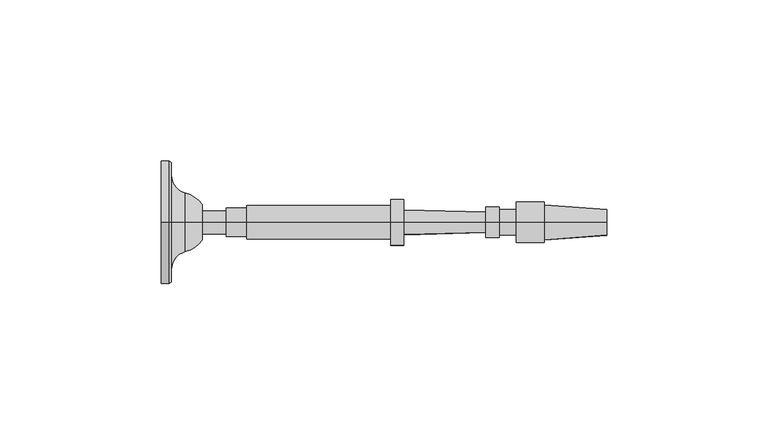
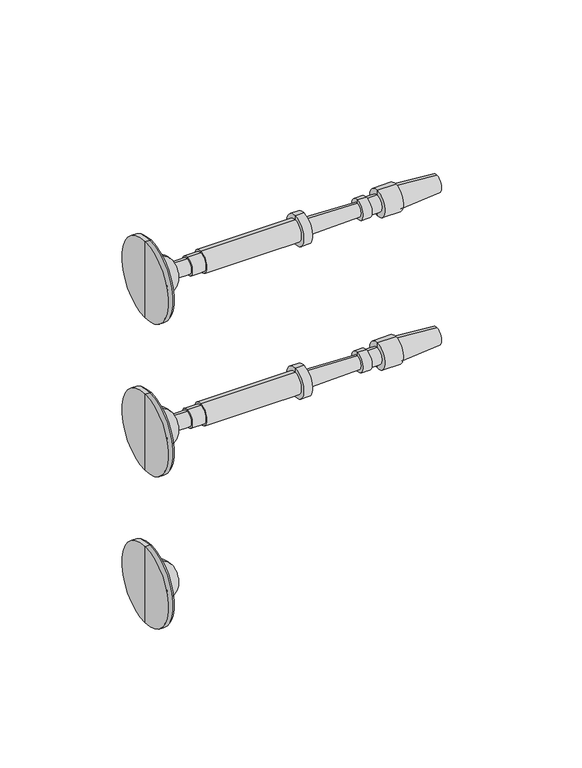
"""IFC4 building model written with IfcOpenShell, lengths in millimetres: railing geometry, RAILEASY CABLE RAILING CORNER TENSIONERS STAIR."""

from ifc_helpers import new_model, si_unit, point, frame, origin, place, context, project, spatial, polyline, circle_curve, ellipse_curve, trimmed, source, transform, mapped, element, save
from ifc_brep_helpers import plane_surface, cylinder_surface, revolved_surface, advanced_brep


def railing_03d107fd(model_context):
    return source(origin(), model_context, "Body", "AdvancedBrep", [
        advanced_brep(
        [(1809.936189, 16706.2866843, 32915.0001631), (1809.936189, 16706.2866843, 32895.9501631), (1809.936189, 16706.2866843, 32934.0501631), (1822.6288256, 16706.2866843, 32909.4769785), (1822.6288256, 16706.2866843, 32915.0001631), (1822.6288256, 16706.2866843, 32920.5233478), (1817.3527292, 16706.2866843, 32905.8720381), (1817.3527292, 16706.2866843, 32924.1282881), (1812.9871042, 16706.2866843, 32900.2458254), (1812.9871042, 16706.2866843, 32929.7545009), (1812.9871042, 16706.2866843, 32896.3762941), (1812.9871042, 16706.2866843, 32933.6240321), (1812.317439, 16706.2866843, 32895.9501631), (1812.317439, 16706.2866843, 32934.0501631)],
        [
            (0, 1),
            (1, 2, circle_curve(frame((1809.936189, 16706.2866843, 32915.0001631), z_axis=(-1.0, 0.0, 0.0), x_axis=(0.0, 0.0, 1.0)), 19.05)),
            (2, 0),
            (2, 1, circle_curve(frame((1809.936189, 16706.2866843, 32915.0001631), z_axis=(-1.0, 0.0, 0.0), x_axis=(0.0, 0.0, 1.0)), 19.05)),
            (3, 4),
            (4, 5),
            (5, 3, circle_curve(frame((1822.6288256, 16706.2866843, 32915.0001631), z_axis=(1.0, 0.0, 0.0), x_axis=(0.0, 0.0, 1.0)), 5.5231846)),
            (3, 5, circle_curve(frame((1822.6288256, 16706.2866843, 32915.0001631), z_axis=(1.0, 0.0, 0.0), x_axis=(0.0, 0.0, 1.0)), 5.5231846)),
            (6, 3, circle_curve(frame((1815.0283205, 16706.2866843, 32914.9374304), z_axis=(0.0, -1.0, 0.0), x_axis=(1.0, 0.0, 0.0)), 9.3586438)),
            (5, 7, circle_curve(frame((1815.0283205, 16706.2866843, 32915.0628958), z_axis=(0.0, -1.0, 0.0), x_axis=(1.0, 0.0, 0.0)), 9.3586438)),
            (7, 6, circle_curve(frame((1817.3527292, 16706.2866843, 32915.0001631), z_axis=(1.0, 0.0, 0.0), x_axis=(0.0, 0.0, 1.0)), 9.128125)),
            (6, 7, circle_curve(frame((1817.3527292, 16706.2866843, 32915.0001631), z_axis=(1.0, 0.0, 0.0), x_axis=(0.0, 0.0, 1.0)), 9.128125)),
            (8, 6, circle_curve(frame((1818.7953162, 16706.2866843, 32900.2458254), z_axis=(0.0, 1.0, 0.0), x_axis=(1.0, 0.0, 0.0)), 5.8082121)),
            (7, 9, circle_curve(frame((1818.7953162, 16706.2866843, 32929.7545009), z_axis=(0.0, 1.0, 0.0), x_axis=(1.0, 0.0, 0.0)), 5.8082121)),
            (9, 8, circle_curve(frame((1812.9871042, 16706.2866843, 32915.0001631), z_axis=(1.0, 0.0, 0.0), x_axis=(0.0, 0.0, 1.0)), 14.7543378)),
            (8, 9, circle_curve(frame((1812.9871042, 16706.2866843, 32915.0001631), z_axis=(1.0, 0.0, 0.0), x_axis=(0.0, 0.0, 1.0)), 14.7543378)),
            (10, 8),
            (9, 11),
            (11, 10, circle_curve(frame((1812.9871042, 16706.2866843, 32915.0001631), z_axis=(1.0, 0.0, 0.0), x_axis=(0.0, 0.0, 1.0)), 18.623869)),
            (10, 11, circle_curve(frame((1812.9871042, 16706.2866843, 32915.0001631), z_axis=(1.0, 0.0, 0.0), x_axis=(0.0, 0.0, 1.0)), 18.623869)),
            (12, 10),
            (11, 13),
            (13, 12, circle_curve(frame((1812.317439, 16706.2866843, 32915.0001631), z_axis=(1.0, 0.0, 0.0), x_axis=(0.0, 0.0, 1.0)), 19.05)),
            (12, 13, circle_curve(frame((1812.317439, 16706.2866843, 32915.0001631), z_axis=(1.0, 0.0, 0.0), x_axis=(0.0, 0.0, 1.0)), 19.05)),
            (1, 12),
            (13, 2),
        ],
        [
            plane_surface(frame((1809.936189, 16706.2866843, 32915.0001631), z_axis=(-1.0, 0.0, 0.0), x_axis=(0.0, 0.0, 1.0))),
            plane_surface(frame((1822.6288256, 16706.2866843, 32915.0001631), z_axis=(1.0, 0.0, 0.0), x_axis=(0.0, 0.0, 1.0))),
            revolved_surface(trimmed(ellipse_curve(frame((1815.0283205, 16706.2866843, 32915.0628958), z_axis=(0.0, -1.0, 0.0), x_axis=(1.0, 0.0, 0.0)), 9.3586438, 9.3586438), [point((1822.6288256, 16706.2866843, 32920.5233478))], [point((1817.3527292, 16706.2866843, 32924.1282881))], True, "CARTESIAN"), (1809.936189, 16706.2866843, 32915.0001631), (-1.0, 0.0, 0.0)),
            revolved_surface(trimmed(ellipse_curve(frame((1818.7953162, 16706.2866843, 32929.7545009), z_axis=(0.0, 1.0, 0.0), x_axis=(1.0, 0.0, 0.0)), 5.8082121, 5.8082121), [point((1817.3527292, 16706.2866843, 32924.1282881))], [point((1812.9871042, 16706.2866843, 32929.7545009))], True, "CARTESIAN"), (1809.936189, 16706.2866843, 32915.0001631), (-1.0, 0.0, 0.0)),
            plane_surface(frame((1812.9871042, 16706.2866843, 32915.0001631), z_axis=(1.0, 0.0, 0.0), x_axis=(0.0, 0.0, 1.0))),
            revolved_surface(polyline([(1812.9871042, 16706.2866843, 32933.6240321), (1812.317439, 16706.2866843, 32934.0501631)]), (1809.936189, 16706.2866843, 32915.0001631), (-1.0, 0.0, 0.0)),
            cylinder_surface(frame((1809.936189, 16706.2866843, 32915.0001631), z_axis=(-1.0, 0.0, 0.0), x_axis=(0.0, 0.0, 1.0)), 19.05),
        ],
        [
            (0, [[1, 2, 3]]),
            (0, [[-3, 4, -1]]),
            (1, [[5, 6, 7]]),
            (1, [[-6, -5, 8]]),
            (2, [[9, -7, 10, 11]]),
            (2, [[-10, -8, -9, 12]]),
            (3, [[13, -11, 14, 15]]),
            (3, [[-14, -12, -13, 16]]),
            (4, [[17, -15, 18, 19]]),
            (4, [[-18, -16, -17, 20]]),
            (5, [[21, -19, 22, 23]]),
            (5, [[-22, -20, -21, 24]]),
            (6, [[25, -23, 26, -2]]),
            (6, [[-26, -24, -25, -4]]),
        ],
    ),
        advanced_brep(
        [(1822.6288256, 16706.2866843, 32911.4282881), (1822.6288256, 16706.2866843, 32918.5720381), (1822.6288256, 16706.2866843, 32915.0001631), (1947.5727148, 16706.2866843, 32915.0001631), (1947.8683792, 16706.2866843, 32919.0246235), (1947.8683792, 16706.2866843, 32910.9757028), (1928.5250152, 16706.2866843, 32920.445719), (1928.5250152, 16706.2866843, 32909.5546072), (1928.5250152, 16706.2866843, 32921.3386877), (1928.5250152, 16706.2866843, 32908.6616385), (1919.892984, 16706.2866843, 32921.3386877), (1919.892984, 16706.2866843, 32908.6616385), (1919.892984, 16706.2866843, 32918.9574377), (1919.892984, 16706.2866843, 32911.0428885), (1914.5351715, 16706.2866843, 32918.9574377), (1914.5351715, 16706.2866843, 32911.0428885), (1914.5351715, 16706.2866843, 32919.7511877), (1914.5351715, 16706.2866843, 32910.2491385), (1910.4672027, 16706.2866843, 32919.7511877), (1910.4672027, 16706.2866843, 32910.2491385), (1910.4231156, 16706.2866843, 32918.1643), (1910.4231156, 16706.2866843, 32911.8360262), (1885.0329124, 16706.2866843, 32918.8696944), (1885.0329124, 16706.2866843, 32911.1306319), (1885.0329124, 16706.2866843, 32922.1439131), (1885.0329124, 16706.2866843, 32907.8564131), (1881.0641624, 16706.2866843, 32922.1439131), (1881.0641624, 16706.2866843, 32907.8564131), (1881.0641624, 16706.2866843, 32920.1595381), (1881.0641624, 16706.2866843, 32909.8407881), (1836.3165061, 16706.2866843, 32920.1595381), (1836.3165061, 16706.2866843, 32909.8407881), (1836.3165061, 16706.2866843, 32919.3657881), (1836.3165061, 16706.2866843, 32910.6345381), (1829.9665061, 16706.2866843, 32919.3657881), (1829.9665061, 16706.2866843, 32910.6345381), (1829.9665061, 16706.2866843, 32918.5720381), (1829.9665061, 16706.2866843, 32911.4282881)],
        [
            (0, 1, circle_curve(frame((1822.6288256, 16706.2866843, 32915.0001631), z_axis=(-1.0, 0.0, 0.0), x_axis=(0.0, 0.0, 1.0000000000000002)), 3.571875)),
            (1, 2),
            (2, 0),
            (1, 0, circle_curve(frame((1822.6288256, 16706.2866843, 32915.0001631), z_axis=(-1.0, 0.0, 0.0), x_axis=(0.0, 0.0, 1.0000000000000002)), 3.571875)),
            (3, 4),
            (4, 5, circle_curve(frame((1947.8683792, 16706.2866843, 32915.0001631), z_axis=(1.0, 0.0, 0.0), x_axis=(0.0, 0.0, 1.0000000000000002)), 4.0244604)),
            (5, 3),
            (5, 4, circle_curve(frame((1947.8683792, 16706.2866843, 32915.0001631), z_axis=(1.0, 0.0, 0.0), x_axis=(0.0, 0.0, 1.0000000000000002)), 4.0244604)),
            (4, 6),
            (6, 7, circle_curve(frame((1928.5250152, 16706.2866843, 32915.0001631), z_axis=(1.0, 0.0, 0.0), x_axis=(0.0, 0.0, 1.0000000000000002)), 5.4455559)),
            (7, 5),
            (7, 6, circle_curve(frame((1928.5250152, 16706.2866843, 32915.0001631), z_axis=(1.0, 0.0, 0.0), x_axis=(0.0, 0.0, 1.0000000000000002)), 5.4455559)),
            (6, 8),
            (8, 9, circle_curve(frame((1928.5250152, 16706.2866843, 32915.0001631), z_axis=(1.0, 0.0, 0.0), x_axis=(0.0, 0.0, 1.0000000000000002)), 6.3385246)),
            (9, 7),
            (9, 8, circle_curve(frame((1928.5250152, 16706.2866843, 32915.0001631), z_axis=(1.0, 0.0, 0.0), x_axis=(0.0, 0.0, 1.0000000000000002)), 6.3385246)),
            (8, 10),
            (10, 11, circle_curve(frame((1919.892984, 16706.2866843, 32915.0001631), z_axis=(1.0, 0.0, 0.0), x_axis=(0.0, 0.0, 1.0000000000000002)), 6.3385246)),
            (11, 9),
            (11, 10, circle_curve(frame((1919.892984, 16706.2866843, 32915.0001631), z_axis=(1.0, 0.0, 0.0), x_axis=(0.0, 0.0, 1.0000000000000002)), 6.3385246)),
            (10, 12),
            (12, 13, circle_curve(frame((1919.892984, 16706.2866843, 32915.0001631), z_axis=(1.0, 0.0, 0.0), x_axis=(0.0, 0.0, 1.0000000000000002)), 3.9572746)),
            (13, 11),
            (13, 12, circle_curve(frame((1919.892984, 16706.2866843, 32915.0001631), z_axis=(1.0, 0.0, 0.0), x_axis=(0.0, 0.0, 1.0000000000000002)), 3.9572746)),
            (12, 14),
            (14, 15, circle_curve(frame((1914.5351715, 16706.2866843, 32915.0001631), z_axis=(1.0, 0.0, 0.0), x_axis=(0.0, 0.0, 1.0000000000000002)), 3.9572746)),
            (15, 13),
            (15, 14, circle_curve(frame((1914.5351715, 16706.2866843, 32915.0001631), z_axis=(1.0, 0.0, 0.0), x_axis=(0.0, 0.0, 1.0000000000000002)), 3.9572746)),
            (14, 16),
            (16, 17, circle_curve(frame((1914.5351715, 16706.2866843, 32915.0001631), z_axis=(1.0, 0.0, 0.0), x_axis=(0.0, 0.0, 1.0000000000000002)), 4.7510246)),
            (17, 15),
            (17, 16, circle_curve(frame((1914.5351715, 16706.2866843, 32915.0001631), z_axis=(1.0, 0.0, 0.0), x_axis=(0.0, 0.0, 1.0000000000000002)), 4.7510246)),
            (16, 18),
            (18, 19, circle_curve(frame((1910.4672027, 16706.2866843, 32915.0001631), z_axis=(1.0, 0.0, 0.0), x_axis=(0.0, 0.0, 1.0000000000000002)), 4.7510246)),
            (19, 17),
            (19, 18, circle_curve(frame((1910.4672027, 16706.2866843, 32915.0001631), z_axis=(1.0, 0.0, 0.0), x_axis=(0.0, 0.0, 1.0000000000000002)), 4.7510246)),
            (18, 20),
            (20, 21, circle_curve(frame((1910.4231156, 16706.2866843, 32915.0001631), z_axis=(1.0, 0.0, 0.0), x_axis=(0.0, 0.0, 1.0000000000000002)), 3.1641369)),
            (21, 19),
            (21, 20, circle_curve(frame((1910.4231156, 16706.2866843, 32915.0001631), z_axis=(1.0, 0.0, 0.0), x_axis=(0.0, 0.0, 1.0000000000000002)), 3.1641369)),
            (20, 22),
            (22, 23, circle_curve(frame((1885.0329124, 16706.2866843, 32915.0001631), z_axis=(1.0, 0.0, 0.0), x_axis=(0.0, 0.0, 1.0000000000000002)), 3.8695313)),
            (23, 21),
            (23, 22, circle_curve(frame((1885.0329124, 16706.2866843, 32915.0001631), z_axis=(1.0, 0.0, 0.0), x_axis=(0.0, 0.0, 1.0000000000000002)), 3.8695313)),
            (22, 24),
            (24, 25, circle_curve(frame((1885.0329124, 16706.2866843, 32915.0001631), z_axis=(1.0, 0.0, 0.0), x_axis=(0.0, 0.0, 1.0000000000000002)), 7.14375)),
            (25, 23),
            (25, 24, circle_curve(frame((1885.0329124, 16706.2866843, 32915.0001631), z_axis=(1.0, 0.0, 0.0), x_axis=(0.0, 0.0, 1.0000000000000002)), 7.14375)),
            (24, 26),
            (26, 27, circle_curve(frame((1881.0641624, 16706.2866843, 32915.0001631), z_axis=(1.0, 0.0, 0.0), x_axis=(0.0, 0.0, 1.0000000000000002)), 7.14375)),
            (27, 25),
            (27, 26, circle_curve(frame((1881.0641624, 16706.2866843, 32915.0001631), z_axis=(1.0, 0.0, 0.0), x_axis=(0.0, 0.0, 1.0000000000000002)), 7.14375)),
            (26, 28),
            (28, 29, circle_curve(frame((1881.0641624, 16706.2866843, 32915.0001631), z_axis=(1.0, 0.0, 0.0), x_axis=(0.0, 0.0, 1.0000000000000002)), 5.159375)),
            (29, 27),
            (29, 28, circle_curve(frame((1881.0641624, 16706.2866843, 32915.0001631), z_axis=(1.0, 0.0, 0.0), x_axis=(0.0, 0.0, 1.0000000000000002)), 5.159375)),
            (28, 30),
            (30, 31, circle_curve(frame((1836.3165061, 16706.2866843, 32915.0001631), z_axis=(1.0, 0.0, 0.0), x_axis=(0.0, 0.0, 1.0000000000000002)), 5.159375)),
            (31, 29),
            (31, 30, circle_curve(frame((1836.3165061, 16706.2866843, 32915.0001631), z_axis=(1.0, 0.0, 0.0), x_axis=(0.0, 0.0, 1.0000000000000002)), 5.159375)),
            (30, 32),
            (32, 33, circle_curve(frame((1836.3165061, 16706.2866843, 32915.0001631), z_axis=(1.0, 0.0, 0.0), x_axis=(0.0, 0.0, 1.0000000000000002)), 4.365625)),
            (33, 31),
            (33, 32, circle_curve(frame((1836.3165061, 16706.2866843, 32915.0001631), z_axis=(1.0, 0.0, 0.0), x_axis=(0.0, 0.0, 1.0000000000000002)), 4.365625)),
            (32, 34),
            (34, 35, circle_curve(frame((1829.9665061, 16706.2866843, 32915.0001631), z_axis=(1.0, 0.0, 0.0), x_axis=(0.0, 0.0, 1.0000000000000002)), 4.365625)),
            (35, 33),
            (35, 34, circle_curve(frame((1829.9665061, 16706.2866843, 32915.0001631), z_axis=(1.0, 0.0, 0.0), x_axis=(0.0, 0.0, 1.0000000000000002)), 4.365625)),
            (34, 36),
            (36, 37, circle_curve(frame((1829.9665061, 16706.2866843, 32915.0001631), z_axis=(1.0, 0.0, 0.0), x_axis=(0.0, 0.0, 1.0000000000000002)), 3.571875)),
            (37, 35),
            (37, 36, circle_curve(frame((1829.9665061, 16706.2866843, 32915.0001631), z_axis=(1.0, 0.0, 0.0), x_axis=(0.0, 0.0, 1.0000000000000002)), 3.571875)),
            (36, 1),
            (0, 37),
        ],
        [
            plane_surface(frame((1822.6288256, 16706.2866843, 32915.0001631), z_axis=(-1.0, 0.0, 0.0), x_axis=(0.0, 0.0, 1.0))),
            revolved_surface(polyline([(1947.8683792, 16706.2866843, 32919.0246235), (1947.5727148, 16706.2866843, 32915.0001631)]), (1947.5727148, 16706.2866843, 32915.0001631), (1.0, 0.0, 0.0)),
            revolved_surface(polyline([(1928.5250152, 16706.2866843, 32920.445719), (1947.8683792, 16706.2866843, 32919.0246235)]), (1947.5727148, 16706.2866843, 32915.0001631), (1.0, 0.0, 0.0)),
            plane_surface(frame((1928.5250152, 16706.2866843, 32915.0001631), z_axis=(1.0, 0.0, 0.0), x_axis=(0.0, 0.0, 1.0))),
            cylinder_surface(frame((1947.5727148, 16706.2866843, 32915.0001631), z_axis=(1.0, 0.0, 0.0), x_axis=(0.0, 0.0, 1.0000000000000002)), 6.3385246),
            plane_surface(frame((1919.892984, 16706.2866843, 32915.0001631), z_axis=(-1.0, 0.0, 0.0), x_axis=(0.0, 0.0, 1.0))),
            cylinder_surface(frame((1947.5727148, 16706.2866843, 32915.0001631), z_axis=(1.0, 0.0, 0.0), x_axis=(0.0, 0.0, 1.0000000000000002)), 3.9572746),
            plane_surface(frame((1914.5351715, 16706.2866843, 32915.0001631), z_axis=(1.0, 0.0, 0.0), x_axis=(0.0, 0.0, 1.0))),
            cylinder_surface(frame((1947.5727148, 16706.2866843, 32915.0001631), z_axis=(1.0, 0.0, 0.0), x_axis=(0.0, 0.0, 1.0000000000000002)), 4.7510246),
            plane_surface(frame((1910.4231156, 16706.2866843, 32915.0001631), z_axis=(-1.0, 0.0, 0.0), x_axis=(0.0, 0.0, 1.0))),
            revolved_surface(polyline([(1885.0329124, 16706.2866843, 32918.8696944), (1910.4231156, 16706.2866843, 32918.1643)]), (1947.5727148, 16706.2866843, 32915.0001631), (1.0, 0.0, 0.0)),
            plane_surface(frame((1885.0329124, 16706.2866843, 32915.0001631), z_axis=(1.0, 0.0, 0.0), x_axis=(0.0, 0.0, 1.0))),
            cylinder_surface(frame((1947.5727148, 16706.2866843, 32915.0001631), z_axis=(1.0, 0.0, 0.0), x_axis=(0.0, 0.0, 1.0000000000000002)), 7.14375),
            plane_surface(frame((1881.0641624, 16706.2866843, 32915.0001631), z_axis=(-1.0, 0.0, 0.0), x_axis=(0.0, 0.0, 1.0))),
            cylinder_surface(frame((1947.5727148, 16706.2866843, 32915.0001631), z_axis=(1.0, 0.0, 0.0), x_axis=(0.0, 0.0, 1.0000000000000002)), 5.159375),
            plane_surface(frame((1836.3165061, 16706.2866843, 32915.0001631), z_axis=(-1.0, 0.0, 0.0), x_axis=(0.0, 0.0, 1.0))),
            cylinder_surface(frame((1947.5727148, 16706.2866843, 32915.0001631), z_axis=(1.0, 0.0, 0.0), x_axis=(0.0, 0.0, 1.0000000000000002)), 4.365625),
            plane_surface(frame((1829.9665061, 16706.2866843, 32915.0001631), z_axis=(-1.0, 0.0, 0.0), x_axis=(0.0, 0.0, 1.0))),
            cylinder_surface(frame((1947.5727148, 16706.2866843, 32915.0001631), z_axis=(1.0, 0.0, 0.0), x_axis=(0.0, 0.0, 1.0000000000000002)), 3.571875),
        ],
        [
            (0, [[1, 2, 3]]),
            (0, [[4, -3, -2]]),
            (1, [[5, 6, 7]]),
            (1, [[-7, 8, -5]]),
            (2, [[-6, 9, 10, 11]]),
            (2, [[-8, -11, 12, -9]]),
            (3, [[-10, 13, 14, 15]]),
            (3, [[-12, -15, 16, -13]]),
            (4, [[-14, 17, 18, 19]]),
            (4, [[-16, -19, 20, -17]]),
            (5, [[-18, 21, 22, 23]]),
            (5, [[-20, -23, 24, -21]]),
            (6, [[-22, 25, 26, 27]]),
            (6, [[-24, -27, 28, -25]]),
            (7, [[-26, 29, 30, 31]]),
            (7, [[-28, -31, 32, -29]]),
            (8, [[-30, 33, 34, 35]]),
            (8, [[-32, -35, 36, -33]]),
            (9, [[-34, 37, 38, 39]]),
            (9, [[-36, -39, 40, -37]]),
            (10, [[-38, 41, 42, 43]]),
            (10, [[-40, -43, 44, -41]]),
            (11, [[-42, 45, 46, 47]]),
            (11, [[-44, -47, 48, -45]]),
            (12, [[-46, 49, 50, 51]]),
            (12, [[-48, -51, 52, -49]]),
            (13, [[-50, 53, 54, 55]]),
            (13, [[-52, -55, 56, -53]]),
            (14, [[-54, 57, 58, 59]]),
            (14, [[-56, -59, 60, -57]]),
            (15, [[-58, 61, 62, 63]]),
            (15, [[-60, -63, 64, -61]]),
            (16, [[-62, 65, 66, 67]]),
            (16, [[-64, -67, 68, -65]]),
            (17, [[-66, 69, 70, 71]]),
            (17, [[-68, -71, 72, -69]]),
            (18, [[-70, 73, -1, 74]]),
            (18, [[-72, -74, -4, -73]]),
        ],
    ),
        advanced_brep(
        [(1809.936189, 16706.2866843, 32838.8001631), (1809.936189, 16706.2866843, 32819.7501631), (1809.936189, 16706.2866843, 32857.8501631), (1822.6288256, 16706.2866843, 32833.2769785), (1822.6288256, 16706.2866843, 32838.8001631), (1822.6288256, 16706.2866843, 32844.3233478), (1817.3527292, 16706.2866843, 32829.6720381), (1817.3527292, 16706.2866843, 32847.9282881), (1812.9871042, 16706.2866843, 32824.0458254), (1812.9871042, 16706.2866843, 32853.5545009), (1812.9871042, 16706.2866843, 32820.1762941), (1812.9871042, 16706.2866843, 32857.4240321), (1812.317439, 16706.2866843, 32819.7501631), (1812.317439, 16706.2866843, 32857.8501631)],
        [
            (0, 1),
            (1, 2, circle_curve(frame((1809.936189, 16706.2866843, 32838.8001631), z_axis=(-1.0, 0.0, 0.0), x_axis=(0.0, 0.0, 1.0)), 19.05)),
            (2, 0),
            (2, 1, circle_curve(frame((1809.936189, 16706.2866843, 32838.8001631), z_axis=(-1.0, 0.0, 0.0), x_axis=(0.0, 0.0, 1.0)), 19.05)),
            (3, 4),
            (4, 5),
            (5, 3, circle_curve(frame((1822.6288256, 16706.2866843, 32838.8001631), z_axis=(1.0, 0.0, 0.0), x_axis=(0.0, 0.0, 1.0)), 5.5231846)),
            (3, 5, circle_curve(frame((1822.6288256, 16706.2866843, 32838.8001631), z_axis=(1.0, 0.0, 0.0), x_axis=(0.0, 0.0, 1.0)), 5.5231846)),
            (6, 3, circle_curve(frame((1815.0283205, 16706.2866843, 32838.7374304), z_axis=(0.0, -1.0, 0.0), x_axis=(1.0, 0.0, 0.0)), 9.3586438)),
            (5, 7, circle_curve(frame((1815.0283205, 16706.2866843, 32838.8628958), z_axis=(0.0, -1.0, 0.0), x_axis=(1.0, 0.0, 0.0)), 9.3586438)),
            (7, 6, circle_curve(frame((1817.3527292, 16706.2866843, 32838.8001631), z_axis=(1.0, 0.0, 0.0), x_axis=(0.0, 0.0, 1.0)), 9.128125)),
            (6, 7, circle_curve(frame((1817.3527292, 16706.2866843, 32838.8001631), z_axis=(1.0, 0.0, 0.0), x_axis=(0.0, 0.0, 1.0)), 9.128125)),
            (8, 6, circle_curve(frame((1818.7953162, 16706.2866843, 32824.0458254), z_axis=(0.0, 1.0, 0.0), x_axis=(1.0, 0.0, 0.0)), 5.8082121)),
            (7, 9, circle_curve(frame((1818.7953162, 16706.2866843, 32853.5545009), z_axis=(0.0, 1.0, 0.0), x_axis=(1.0, 0.0, 0.0)), 5.8082121)),
            (9, 8, circle_curve(frame((1812.9871042, 16706.2866843, 32838.8001631), z_axis=(1.0, 0.0, 0.0), x_axis=(0.0, 0.0, 1.0)), 14.7543378)),
            (8, 9, circle_curve(frame((1812.9871042, 16706.2866843, 32838.8001631), z_axis=(1.0, 0.0, 0.0), x_axis=(0.0, 0.0, 1.0)), 14.7543378)),
            (10, 8),
            (9, 11),
            (11, 10, circle_curve(frame((1812.9871042, 16706.2866843, 32838.8001631), z_axis=(1.0, 0.0, 0.0), x_axis=(0.0, 0.0, 1.0)), 18.623869)),
            (10, 11, circle_curve(frame((1812.9871042, 16706.2866843, 32838.8001631), z_axis=(1.0, 0.0, 0.0), x_axis=(0.0, 0.0, 1.0)), 18.623869)),
            (12, 10),
            (11, 13),
            (13, 12, circle_curve(frame((1812.317439, 16706.2866843, 32838.8001631), z_axis=(1.0, 0.0, 0.0), x_axis=(0.0, 0.0, 1.0)), 19.05)),
            (12, 13, circle_curve(frame((1812.317439, 16706.2866843, 32838.8001631), z_axis=(1.0, 0.0, 0.0), x_axis=(0.0, 0.0, 1.0)), 19.05)),
            (1, 12),
            (13, 2),
        ],
        [
            plane_surface(frame((1809.936189, 16706.2866843, 32838.8001631), z_axis=(-1.0, 0.0, 0.0), x_axis=(0.0, 0.0, 1.0))),
            plane_surface(frame((1822.6288256, 16706.2866843, 32838.8001631), z_axis=(1.0, 0.0, 0.0), x_axis=(0.0, 0.0, 1.0))),
            revolved_surface(trimmed(ellipse_curve(frame((1815.0283205, 16706.2866843, 32838.8628958), z_axis=(0.0, -1.0, 0.0), x_axis=(1.0, 0.0, 0.0)), 9.3586438, 9.3586438), [point((1822.6288256, 16706.2866843, 32844.3233478))], [point((1817.3527292, 16706.2866843, 32847.9282881))], True, "CARTESIAN"), (1809.936189, 16706.2866843, 32838.8001631), (-1.0, 0.0, 0.0)),
            revolved_surface(trimmed(ellipse_curve(frame((1818.7953162, 16706.2866843, 32853.5545009), z_axis=(0.0, 1.0, 0.0), x_axis=(1.0, 0.0, 0.0)), 5.8082121, 5.8082121), [point((1817.3527292, 16706.2866843, 32847.9282881))], [point((1812.9871042, 16706.2866843, 32853.5545009))], True, "CARTESIAN"), (1809.936189, 16706.2866843, 32838.8001631), (-1.0, 0.0, 0.0)),
            plane_surface(frame((1812.9871042, 16706.2866843, 32838.8001631), z_axis=(1.0, 0.0, 0.0), x_axis=(0.0, 0.0, 1.0))),
            revolved_surface(polyline([(1812.9871042, 16706.2866843, 32857.4240321), (1812.317439, 16706.2866843, 32857.8501631)]), (1809.936189, 16706.2866843, 32838.8001631), (-1.0, 0.0, 0.0)),
            cylinder_surface(frame((1809.936189, 16706.2866843, 32838.8001631), z_axis=(-1.0, 0.0, 0.0), x_axis=(0.0, 0.0, 1.0)), 19.05),
        ],
        [
            (0, [[1, 2, 3]]),
            (0, [[-3, 4, -1]]),
            (1, [[5, 6, 7]]),
            (1, [[-6, -5, 8]]),
            (2, [[9, -7, 10, 11]]),
            (2, [[-10, -8, -9, 12]]),
            (3, [[13, -11, 14, 15]]),
            (3, [[-14, -12, -13, 16]]),
            (4, [[17, -15, 18, 19]]),
            (4, [[-18, -16, -17, 20]]),
            (5, [[21, -19, 22, 23]]),
            (5, [[-22, -20, -21, 24]]),
            (6, [[25, -23, 26, -2]]),
            (6, [[-26, -24, -25, -4]]),
        ],
    ),
        advanced_brep(
        [(1822.6288256, 16706.2866843, 32835.2282881), (1822.6288256, 16706.2866843, 32842.3720381), (1822.6288256, 16706.2866843, 32838.8001631), (1947.5727148, 16706.2866843, 32838.8001631), (1947.8683792, 16706.2866843, 32842.8246235), (1947.8683792, 16706.2866843, 32834.7757028), (1928.5250152, 16706.2866843, 32844.245719), (1928.5250152, 16706.2866843, 32833.3546072), (1928.5250152, 16706.2866843, 32845.1386877), (1928.5250152, 16706.2866843, 32832.4616385), (1919.892984, 16706.2866843, 32845.1386877), (1919.892984, 16706.2866843, 32832.4616385), (1919.892984, 16706.2866843, 32842.7574377), (1919.892984, 16706.2866843, 32834.8428885), (1914.5351715, 16706.2866843, 32842.7574377), (1914.5351715, 16706.2866843, 32834.8428885), (1914.5351715, 16706.2866843, 32843.5511877), (1914.5351715, 16706.2866843, 32834.0491385), (1910.4672027, 16706.2866843, 32843.5511877), (1910.4672027, 16706.2866843, 32834.0491385), (1910.4231156, 16706.2866843, 32841.9643), (1910.4231156, 16706.2866843, 32835.6360262), (1885.0329124, 16706.2866843, 32842.6696944), (1885.0329124, 16706.2866843, 32834.9306319), (1885.0329124, 16706.2866843, 32845.9439131), (1885.0329124, 16706.2866843, 32831.6564131), (1881.0641624, 16706.2866843, 32845.9439131), (1881.0641624, 16706.2866843, 32831.6564131), (1881.0641624, 16706.2866843, 32843.9595381), (1881.0641624, 16706.2866843, 32833.6407881), (1836.3165061, 16706.2866843, 32843.9595381), (1836.3165061, 16706.2866843, 32833.6407881), (1836.3165061, 16706.2866843, 32843.1657881), (1836.3165061, 16706.2866843, 32834.4345381), (1829.9665061, 16706.2866843, 32843.1657881), (1829.9665061, 16706.2866843, 32834.4345381), (1829.9665061, 16706.2866843, 32842.3720381), (1829.9665061, 16706.2866843, 32835.2282881)],
        [
            (0, 1, circle_curve(frame((1822.6288256, 16706.2866843, 32838.8001631), z_axis=(-1.0, 0.0, 0.0), x_axis=(0.0, 0.0, 1.0000000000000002)), 3.571875)),
            (1, 2),
            (2, 0),
            (1, 0, circle_curve(frame((1822.6288256, 16706.2866843, 32838.8001631), z_axis=(-1.0, 0.0, 0.0), x_axis=(0.0, 0.0, 1.0000000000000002)), 3.571875)),
            (3, 4),
            (4, 5, circle_curve(frame((1947.8683792, 16706.2866843, 32838.8001631), z_axis=(1.0, 0.0, 0.0), x_axis=(0.0, 0.0, 1.0000000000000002)), 4.0244604)),
            (5, 3),
            (5, 4, circle_curve(frame((1947.8683792, 16706.2866843, 32838.8001631), z_axis=(1.0, 0.0, 0.0), x_axis=(0.0, 0.0, 1.0000000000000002)), 4.0244604)),
            (4, 6),
            (6, 7, circle_curve(frame((1928.5250152, 16706.2866843, 32838.8001631), z_axis=(1.0, 0.0, 0.0), x_axis=(0.0, 0.0, 1.0000000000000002)), 5.4455559)),
            (7, 5),
            (7, 6, circle_curve(frame((1928.5250152, 16706.2866843, 32838.8001631), z_axis=(1.0, 0.0, 0.0), x_axis=(0.0, 0.0, 1.0000000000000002)), 5.4455559)),
            (6, 8),
            (8, 9, circle_curve(frame((1928.5250152, 16706.2866843, 32838.8001631), z_axis=(1.0, 0.0, 0.0), x_axis=(0.0, 0.0, 1.0000000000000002)), 6.3385246)),
            (9, 7),
            (9, 8, circle_curve(frame((1928.5250152, 16706.2866843, 32838.8001631), z_axis=(1.0, 0.0, 0.0), x_axis=(0.0, 0.0, 1.0000000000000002)), 6.3385246)),
            (8, 10),
            (10, 11, circle_curve(frame((1919.892984, 16706.2866843, 32838.8001631), z_axis=(1.0, 0.0, 0.0), x_axis=(0.0, 0.0, 1.0000000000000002)), 6.3385246)),
            (11, 9),
            (11, 10, circle_curve(frame((1919.892984, 16706.2866843, 32838.8001631), z_axis=(1.0, 0.0, 0.0), x_axis=(0.0, 0.0, 1.0000000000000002)), 6.3385246)),
            (10, 12),
            (12, 13, circle_curve(frame((1919.892984, 16706.2866843, 32838.8001631), z_axis=(1.0, 0.0, 0.0), x_axis=(0.0, 0.0, 1.0000000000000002)), 3.9572746)),
            (13, 11),
            (13, 12, circle_curve(frame((1919.892984, 16706.2866843, 32838.8001631), z_axis=(1.0, 0.0, 0.0), x_axis=(0.0, 0.0, 1.0000000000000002)), 3.9572746)),
            (12, 14),
            (14, 15, circle_curve(frame((1914.5351715, 16706.2866843, 32838.8001631), z_axis=(1.0, 0.0, 0.0), x_axis=(0.0, 0.0, 1.0000000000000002)), 3.9572746)),
            (15, 13),
            (15, 14, circle_curve(frame((1914.5351715, 16706.2866843, 32838.8001631), z_axis=(1.0, 0.0, 0.0), x_axis=(0.0, 0.0, 1.0000000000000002)), 3.9572746)),
            (14, 16),
            (16, 17, circle_curve(frame((1914.5351715, 16706.2866843, 32838.8001631), z_axis=(1.0, 0.0, 0.0), x_axis=(0.0, 0.0, 1.0000000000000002)), 4.7510246)),
            (17, 15),
            (17, 16, circle_curve(frame((1914.5351715, 16706.2866843, 32838.8001631), z_axis=(1.0, 0.0, 0.0), x_axis=(0.0, 0.0, 1.0000000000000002)), 4.7510246)),
            (16, 18),
            (18, 19, circle_curve(frame((1910.4672027, 16706.2866843, 32838.8001631), z_axis=(1.0, 0.0, 0.0), x_axis=(0.0, 0.0, 1.0000000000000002)), 4.7510246)),
            (19, 17),
            (19, 18, circle_curve(frame((1910.4672027, 16706.2866843, 32838.8001631), z_axis=(1.0, 0.0, 0.0), x_axis=(0.0, 0.0, 1.0000000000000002)), 4.7510246)),
            (18, 20),
            (20, 21, circle_curve(frame((1910.4231156, 16706.2866843, 32838.8001631), z_axis=(1.0, 0.0, 0.0), x_axis=(0.0, 0.0, 1.0000000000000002)), 3.1641369)),
            (21, 19),
            (21, 20, circle_curve(frame((1910.4231156, 16706.2866843, 32838.8001631), z_axis=(1.0, 0.0, 0.0), x_axis=(0.0, 0.0, 1.0000000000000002)), 3.1641369)),
            (20, 22),
            (22, 23, circle_curve(frame((1885.0329124, 16706.2866843, 32838.8001631), z_axis=(1.0, 0.0, 0.0), x_axis=(0.0, 0.0, 1.0000000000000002)), 3.8695313)),
            (23, 21),
            (23, 22, circle_curve(frame((1885.0329124, 16706.2866843, 32838.8001631), z_axis=(1.0, 0.0, 0.0), x_axis=(0.0, 0.0, 1.0000000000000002)), 3.8695313)),
            (22, 24),
            (24, 25, circle_curve(frame((1885.0329124, 16706.2866843, 32838.8001631), z_axis=(1.0, 0.0, 0.0), x_axis=(0.0, 0.0, 1.0000000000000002)), 7.14375)),
            (25, 23),
            (25, 24, circle_curve(frame((1885.0329124, 16706.2866843, 32838.8001631), z_axis=(1.0, 0.0, 0.0), x_axis=(0.0, 0.0, 1.0000000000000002)), 7.14375)),
            (24, 26),
            (26, 27, circle_curve(frame((1881.0641624, 16706.2866843, 32838.8001631), z_axis=(1.0, 0.0, 0.0), x_axis=(0.0, 0.0, 1.0000000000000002)), 7.14375)),
            (27, 25),
            (27, 26, circle_curve(frame((1881.0641624, 16706.2866843, 32838.8001631), z_axis=(1.0, 0.0, 0.0), x_axis=(0.0, 0.0, 1.0000000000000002)), 7.14375)),
            (26, 28),
            (28, 29, circle_curve(frame((1881.0641624, 16706.2866843, 32838.8001631), z_axis=(1.0, 0.0, 0.0), x_axis=(0.0, 0.0, 1.0000000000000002)), 5.159375)),
            (29, 27),
            (29, 28, circle_curve(frame((1881.0641624, 16706.2866843, 32838.8001631), z_axis=(1.0, 0.0, 0.0), x_axis=(0.0, 0.0, 1.0000000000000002)), 5.159375)),
            (28, 30),
            (30, 31, circle_curve(frame((1836.3165061, 16706.2866843, 32838.8001631), z_axis=(1.0, 0.0, 0.0), x_axis=(0.0, 0.0, 1.0000000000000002)), 5.159375)),
            (31, 29),
            (31, 30, circle_curve(frame((1836.3165061, 16706.2866843, 32838.8001631), z_axis=(1.0, 0.0, 0.0), x_axis=(0.0, 0.0, 1.0000000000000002)), 5.159375)),
            (30, 32),
            (32, 33, circle_curve(frame((1836.3165061, 16706.2866843, 32838.8001631), z_axis=(1.0, 0.0, 0.0), x_axis=(0.0, 0.0, 1.0000000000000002)), 4.365625)),
            (33, 31),
            (33, 32, circle_curve(frame((1836.3165061, 16706.2866843, 32838.8001631), z_axis=(1.0, 0.0, 0.0), x_axis=(0.0, 0.0, 1.0000000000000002)), 4.365625)),
            (32, 34),
            (34, 35, circle_curve(frame((1829.9665061, 16706.2866843, 32838.8001631), z_axis=(1.0, 0.0, 0.0), x_axis=(0.0, 0.0, 1.0000000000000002)), 4.365625)),
            (35, 33),
            (35, 34, circle_curve(frame((1829.9665061, 16706.2866843, 32838.8001631), z_axis=(1.0, 0.0, 0.0), x_axis=(0.0, 0.0, 1.0000000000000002)), 4.365625)),
            (34, 36),
            (36, 37, circle_curve(frame((1829.9665061, 16706.2866843, 32838.8001631), z_axis=(1.0, 0.0, 0.0), x_axis=(0.0, 0.0, 1.0000000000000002)), 3.571875)),
            (37, 35),
            (37, 36, circle_curve(frame((1829.9665061, 16706.2866843, 32838.8001631), z_axis=(1.0, 0.0, 0.0), x_axis=(0.0, 0.0, 1.0000000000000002)), 3.571875)),
            (36, 1),
            (0, 37),
        ],
        [
            plane_surface(frame((1822.6288256, 16706.2866843, 32838.8001631), z_axis=(-1.0, 0.0, 0.0), x_axis=(0.0, 0.0, 1.0))),
            revolved_surface(polyline([(1947.8683792, 16706.2866843, 32842.8246235), (1947.5727148, 16706.2866843, 32838.8001631)]), (1947.5727148, 16706.2866843, 32838.8001631), (1.0, 0.0, 0.0)),
            revolved_surface(polyline([(1928.5250152, 16706.2866843, 32844.245719), (1947.8683792, 16706.2866843, 32842.8246235)]), (1947.5727148, 16706.2866843, 32838.8001631), (1.0, 0.0, 0.0)),
            plane_surface(frame((1928.5250152, 16706.2866843, 32838.8001631), z_axis=(1.0, 0.0, 0.0), x_axis=(0.0, 0.0, 1.0))),
            cylinder_surface(frame((1947.5727148, 16706.2866843, 32838.8001631), z_axis=(1.0, 0.0, 0.0), x_axis=(0.0, 0.0, 1.0000000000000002)), 6.3385246),
            plane_surface(frame((1919.892984, 16706.2866843, 32838.8001631), z_axis=(-1.0, 0.0, 0.0), x_axis=(0.0, 0.0, 1.0))),
            cylinder_surface(frame((1947.5727148, 16706.2866843, 32838.8001631), z_axis=(1.0, 0.0, 0.0), x_axis=(0.0, 0.0, 1.0000000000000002)), 3.9572746),
            plane_surface(frame((1914.5351715, 16706.2866843, 32838.8001631), z_axis=(1.0, 0.0, 0.0), x_axis=(0.0, 0.0, 1.0))),
            cylinder_surface(frame((1947.5727148, 16706.2866843, 32838.8001631), z_axis=(1.0, 0.0, 0.0), x_axis=(0.0, 0.0, 1.0000000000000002)), 4.7510246),
            plane_surface(frame((1910.4231156, 16706.2866843, 32838.8001631), z_axis=(-1.0, 0.0, 0.0), x_axis=(0.0, 0.0, 1.0))),
            revolved_surface(polyline([(1885.0329124, 16706.2866843, 32842.6696944), (1910.4231156, 16706.2866843, 32841.9643)]), (1947.5727148, 16706.2866843, 32838.8001631), (1.0, 0.0, 0.0)),
            plane_surface(frame((1885.0329124, 16706.2866843, 32838.8001631), z_axis=(1.0, 0.0, 0.0), x_axis=(0.0, 0.0, 1.0))),
            cylinder_surface(frame((1947.5727148, 16706.2866843, 32838.8001631), z_axis=(1.0, 0.0, 0.0), x_axis=(0.0, 0.0, 1.0000000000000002)), 7.14375),
            plane_surface(frame((1881.0641624, 16706.2866843, 32838.8001631), z_axis=(-1.0, 0.0, 0.0), x_axis=(0.0, 0.0, 1.0))),
            cylinder_surface(frame((1947.5727148, 16706.2866843, 32838.8001631), z_axis=(1.0, 0.0, 0.0), x_axis=(0.0, 0.0, 1.0000000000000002)), 5.159375),
            plane_surface(frame((1836.3165061, 16706.2866843, 32838.8001631), z_axis=(-1.0, 0.0, 0.0), x_axis=(0.0, 0.0, 1.0))),
            cylinder_surface(frame((1947.5727148, 16706.2866843, 32838.8001631), z_axis=(1.0, 0.0, 0.0), x_axis=(0.0, 0.0, 1.0000000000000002)), 4.365625),
            plane_surface(frame((1829.9665061, 16706.2866843, 32838.8001631), z_axis=(-1.0, 0.0, 0.0), x_axis=(0.0, 0.0, 1.0))),
            cylinder_surface(frame((1947.5727148, 16706.2866843, 32838.8001631), z_axis=(1.0, 0.0, 0.0), x_axis=(0.0, 0.0, 1.0000000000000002)), 3.571875),
        ],
        [
            (0, [[1, 2, 3]]),
            (0, [[4, -3, -2]]),
            (1, [[5, 6, 7]]),
            (1, [[-7, 8, -5]]),
            (2, [[-6, 9, 10, 11]]),
            (2, [[-8, -11, 12, -9]]),
            (3, [[-10, 13, 14, 15]]),
            (3, [[-12, -15, 16, -13]]),
            (4, [[-14, 17, 18, 19]]),
            (4, [[-16, -19, 20, -17]]),
            (5, [[-18, 21, 22, 23]]),
            (5, [[-20, -23, 24, -21]]),
            (6, [[-22, 25, 26, 27]]),
            (6, [[-24, -27, 28, -25]]),
            (7, [[-26, 29, 30, 31]]),
            (7, [[-28, -31, 32, -29]]),
            (8, [[-30, 33, 34, 35]]),
            (8, [[-32, -35, 36, -33]]),
            (9, [[-34, 37, 38, 39]]),
            (9, [[-36, -39, 40, -37]]),
            (10, [[-38, 41, 42, 43]]),
            (10, [[-40, -43, 44, -41]]),
            (11, [[-42, 45, 46, 47]]),
            (11, [[-44, -47, 48, -45]]),
            (12, [[-46, 49, 50, 51]]),
            (12, [[-48, -51, 52, -49]]),
            (13, [[-50, 53, 54, 55]]),
            (13, [[-52, -55, 56, -53]]),
            (14, [[-54, 57, 58, 59]]),
            (14, [[-56, -59, 60, -57]]),
            (15, [[-58, 61, 62, 63]]),
            (15, [[-60, -63, 64, -61]]),
            (16, [[-62, 65, 66, 67]]),
            (16, [[-64, -67, 68, -65]]),
            (17, [[-66, 69, 70, 71]]),
            (17, [[-68, -71, 72, -69]]),
            (18, [[-70, 73, -1, 74]]),
            (18, [[-72, -74, -4, -73]]),
        ],
    ),
        advanced_brep(
        [(1809.936189, 16706.2866843, 32762.6001631), (1809.936189, 16706.2866843, 32743.5501631), (1809.936189, 16706.2866843, 32781.6501631), (1822.6288256, 16706.2866843, 32757.0769785), (1822.6288256, 16706.2866843, 32762.6001631), (1822.6288256, 16706.2866843, 32768.1233478), (1817.3527292, 16706.2866843, 32753.4720381), (1817.3527292, 16706.2866843, 32771.7282881), (1812.9871042, 16706.2866843, 32747.8458254), (1812.9871042, 16706.2866843, 32777.3545009), (1812.9871042, 16706.2866843, 32743.9762941), (1812.9871042, 16706.2866843, 32781.2240321), (1812.317439, 16706.2866843, 32743.5501631), (1812.317439, 16706.2866843, 32781.6501631)],
        [
            (0, 1),
            (1, 2, circle_curve(frame((1809.936189, 16706.2866843, 32762.6001631), z_axis=(-1.0, 0.0, 0.0), x_axis=(0.0, 0.0, 1.0)), 19.05)),
            (2, 0),
            (2, 1, circle_curve(frame((1809.936189, 16706.2866843, 32762.6001631), z_axis=(-1.0, 0.0, 0.0), x_axis=(0.0, 0.0, 1.0)), 19.05)),
            (3, 4),
            (4, 5),
            (5, 3, circle_curve(frame((1822.6288256, 16706.2866843, 32762.6001631), z_axis=(1.0, 0.0, 0.0), x_axis=(0.0, 0.0, 1.0)), 5.5231846)),
            (3, 5, circle_curve(frame((1822.6288256, 16706.2866843, 32762.6001631), z_axis=(1.0, 0.0, 0.0), x_axis=(0.0, 0.0, 1.0)), 5.5231846)),
            (6, 3, circle_curve(frame((1815.0283205, 16706.2866843, 32762.5374304), z_axis=(0.0, -1.0, 0.0), x_axis=(1.0, 0.0, 0.0)), 9.3586438)),
            (5, 7, circle_curve(frame((1815.0283205, 16706.2866843, 32762.6628958), z_axis=(0.0, -1.0, 0.0), x_axis=(1.0, 0.0, 0.0)), 9.3586438)),
            (7, 6, circle_curve(frame((1817.3527292, 16706.2866843, 32762.6001631), z_axis=(1.0, 0.0, 0.0), x_axis=(0.0, 0.0, 1.0)), 9.128125)),
            (6, 7, circle_curve(frame((1817.3527292, 16706.2866843, 32762.6001631), z_axis=(1.0, 0.0, 0.0), x_axis=(0.0, 0.0, 1.0)), 9.128125)),
            (8, 6, circle_curve(frame((1818.7953162, 16706.2866843, 32747.8458254), z_axis=(0.0, 1.0, 0.0), x_axis=(1.0, 0.0, 0.0)), 5.8082121)),
            (7, 9, circle_curve(frame((1818.7953162, 16706.2866843, 32777.3545009), z_axis=(0.0, 1.0, 0.0), x_axis=(1.0, 0.0, 0.0)), 5.8082121)),
            (9, 8, circle_curve(frame((1812.9871042, 16706.2866843, 32762.6001631), z_axis=(1.0, 0.0, 0.0), x_axis=(0.0, 0.0, 1.0)), 14.7543378)),
            (8, 9, circle_curve(frame((1812.9871042, 16706.2866843, 32762.6001631), z_axis=(1.0, 0.0, 0.0), x_axis=(0.0, 0.0, 1.0)), 14.7543378)),
            (10, 8),
            (9, 11),
            (11, 10, circle_curve(frame((1812.9871042, 16706.2866843, 32762.6001631), z_axis=(1.0, 0.0, 0.0), x_axis=(0.0, 0.0, 1.0)), 18.623869)),
            (10, 11, circle_curve(frame((1812.9871042, 16706.2866843, 32762.6001631), z_axis=(1.0, 0.0, 0.0), x_axis=(0.0, 0.0, 1.0)), 18.623869)),
            (12, 10),
            (11, 13),
            (13, 12, circle_curve(frame((1812.317439, 16706.2866843, 32762.6001631), z_axis=(1.0, 0.0, 0.0), x_axis=(0.0, 0.0, 1.0)), 19.05)),
            (12, 13, circle_curve(frame((1812.317439, 16706.2866843, 32762.6001631), z_axis=(1.0, 0.0, 0.0), x_axis=(0.0, 0.0, 1.0)), 19.05)),
            (1, 12),
            (13, 2),
        ],
        [
            plane_surface(frame((1809.936189, 16706.2866843, 32762.6001631), z_axis=(-1.0, 0.0, 0.0), x_axis=(0.0, 0.0, 1.0))),
            plane_surface(frame((1822.6288256, 16706.2866843, 32762.6001631), z_axis=(1.0, 0.0, 0.0), x_axis=(0.0, 0.0, 1.0))),
            revolved_surface(trimmed(ellipse_curve(frame((1815.0283205, 16706.2866843, 32762.6628958), z_axis=(0.0, -1.0, 0.0), x_axis=(1.0, 0.0, 0.0)), 9.3586438, 9.3586438), [point((1822.6288256, 16706.2866843, 32768.1233478))], [point((1817.3527292, 16706.2866843, 32771.7282881))], True, "CARTESIAN"), (1809.936189, 16706.2866843, 32762.6001631), (-1.0, 0.0, 0.0)),
            revolved_surface(trimmed(ellipse_curve(frame((1818.7953162, 16706.2866843, 32777.3545009), z_axis=(0.0, 1.0, 0.0), x_axis=(1.0, 0.0, 0.0)), 5.8082121, 5.8082121), [point((1817.3527292, 16706.2866843, 32771.7282881))], [point((1812.9871042, 16706.2866843, 32777.3545009))], True, "CARTESIAN"), (1809.936189, 16706.2866843, 32762.6001631), (-1.0, 0.0, 0.0)),
            plane_surface(frame((1812.9871042, 16706.2866843, 32762.6001631), z_axis=(1.0, 0.0, 0.0), x_axis=(0.0, 0.0, 1.0))),
            revolved_surface(polyline([(1812.9871042, 16706.2866843, 32781.2240321), (1812.317439, 16706.2866843, 32781.6501631)]), (1809.936189, 16706.2866843, 32762.6001631), (-1.0, 0.0, 0.0)),
            cylinder_surface(frame((1809.936189, 16706.2866843, 32762.6001631), z_axis=(-1.0, 0.0, 0.0), x_axis=(0.0, 0.0, 1.0)), 19.05),
        ],
        [
            (0, [[1, 2, 3]]),
            (0, [[-3, 4, -1]]),
            (1, [[5, 6, 7]]),
            (1, [[-6, -5, 8]]),
            (2, [[9, -7, 10, 11]]),
            (2, [[-10, -8, -9, 12]]),
            (3, [[13, -11, 14, 15]]),
            (3, [[-14, -12, -13, 16]]),
            (4, [[17, -15, 18, 19]]),
            (4, [[-18, -16, -17, 20]]),
            (5, [[21, -19, 22, 23]]),
            (5, [[-22, -20, -21, 24]]),
            (6, [[25, -23, 26, -2]]),
            (6, [[-26, -24, -25, -4]]),
        ],
    ),
    ])


if __name__ == "__main__":
    model = new_model("IFC4")
    model_context = context("Model", 3, world=origin())
    ifc_project = project(units=[si_unit("LENGTHUNIT", "METRE", prefix="MILLI")], contexts=[model_context])
    site = spatial("IfcSite", under=ifc_project)
    building = spatial("IfcBuilding", under=site)
    placement = place(None, origin())
    railing_shape = railing_03d107fd(model_context)
    element("IfcRailing", 1, ObjectType="RAILEASY CABLE RAILING CORNER TENSIONERS STAIR", at=placement, inside=building, context=model_context, shape_type="MappedRepresentation", body=[
        mapped(railing_shape, transform((0.0, 0.0, 0.0), x_axis=(1.0, 0.0, 0.0), y_axis=(0.0, 1.0, 0.0), z_axis=(0.0, 0.0, 1.0))),
    ])
    save(model, "model.ifc")
